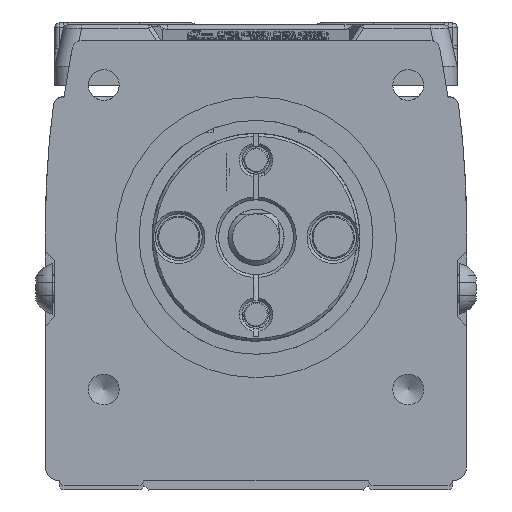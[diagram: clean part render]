
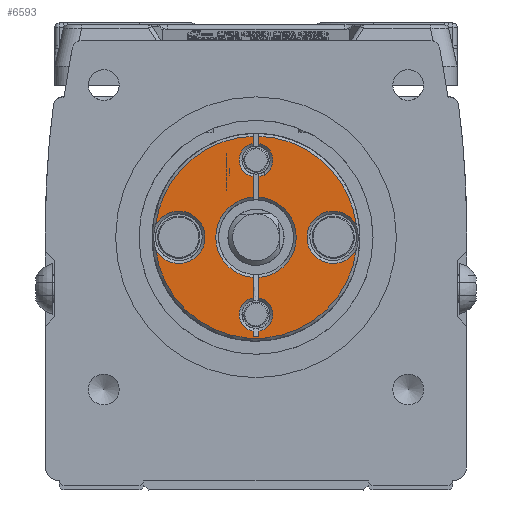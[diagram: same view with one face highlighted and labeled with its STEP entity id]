
A CAD part, left-side view. The second image highlights one B-rep face of the part: STEP entity #6593.
In plain terms, the highlighted planar face has unit normal (-1, 0, 0) as drawn and (1, 0, 0) by its records, which use the part's own axes.
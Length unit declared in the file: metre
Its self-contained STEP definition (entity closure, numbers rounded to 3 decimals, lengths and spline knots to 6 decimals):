
#6593=ADVANCED_FACE('',(#12910),#12911,.F.);
#12910=FACE_OUTER_BOUND('',#22167,.T.);
#12911=PLANE('',#22168);
#22167=EDGE_LOOP('',(#37082,#37083,#37084,#37085,#37086,#37087,#37088,#37089,#37090,#37091,#37092,#37093,#37094,#37095,#37096,#37097,#37098,#37099,#37100,#37101));
#22168=AXIS2_PLACEMENT_3D('',#37102,#37103,#37104);
#37082=ORIENTED_EDGE('',*,*,#38976,.F.);
#37083=ORIENTED_EDGE('',*,*,#38655,.T.);
#37084=ORIENTED_EDGE('',*,*,#42840,.F.);
#37085=ORIENTED_EDGE('',*,*,#43964,.F.);
#37086=ORIENTED_EDGE('',*,*,#42923,.T.);
#37087=ORIENTED_EDGE('',*,*,#43995,.T.);
#37088=ORIENTED_EDGE('',*,*,#43996,.F.);
#37089=ORIENTED_EDGE('',*,*,#42848,.F.);
#37090=ORIENTED_EDGE('',*,*,#43997,.F.);
#37091=ORIENTED_EDGE('',*,*,#43998,.T.);
#37092=ORIENTED_EDGE('',*,*,#41567,.F.);
#37093=ORIENTED_EDGE('',*,*,#38314,.F.);
#37094=ORIENTED_EDGE('',*,*,#38513,.F.);
#37095=ORIENTED_EDGE('',*,*,#39984,.F.);
#37096=ORIENTED_EDGE('',*,*,#43928,.F.);
#37097=ORIENTED_EDGE('',*,*,#39982,.F.);
#37098=ORIENTED_EDGE('',*,*,#43910,.F.);
#37099=ORIENTED_EDGE('',*,*,#39980,.F.);
#37100=ORIENTED_EDGE('',*,*,#43999,.T.);
#37101=ORIENTED_EDGE('',*,*,#44000,.F.);
#37102=CARTESIAN_POINT('',(0.0,0.0,0.));
#37103=DIRECTION('',(-1.0,0.,0.0));
#37104=DIRECTION('',(0.,-1.0,0.0));
#38314=EDGE_CURVE('',#44434,#44435,#44436,.T.);
#38513=EDGE_CURVE('',#44776,#44434,#44778,.T.);
#38655=EDGE_CURVE('',#45009,#45013,#45015,.T.);
#38976=EDGE_CURVE('',#45009,#45596,#45597,.F.);
#39980=EDGE_CURVE('',#47286,#47288,#47289,.T.);
#39982=EDGE_CURVE('',#47290,#47292,#47293,.T.);
#39984=EDGE_CURVE('',#47294,#44776,#47296,.T.);
#41567=EDGE_CURVE('',#44435,#49689,#49690,.F.);
#42840=EDGE_CURVE('',#51450,#45013,#51451,.F.);
#42848=EDGE_CURVE('',#51460,#51461,#51462,.T.);
#42923=EDGE_CURVE('',#51557,#51561,#51563,.F.);
#43910=EDGE_CURVE('',#47288,#47290,#52739,.T.);
#43928=EDGE_CURVE('',#47292,#47294,#52760,.T.);
#43964=EDGE_CURVE('',#51557,#51450,#52802,.T.);
#43995=EDGE_CURVE('',#51561,#52843,#52844,.T.);
#43996=EDGE_CURVE('',#51461,#52843,#52845,.F.);
#43997=EDGE_CURVE('',#52846,#51460,#52847,.T.);
#43998=EDGE_CURVE('',#52846,#49689,#52848,.T.);
#43999=EDGE_CURVE('',#47286,#52849,#52850,.F.);
#44000=EDGE_CURVE('',#45596,#52849,#52851,.T.);
#44434=VERTEX_POINT('',#53429);
#44435=VERTEX_POINT('',#53430);
#44436=CIRCLE('',#53431,0.0018);
#44776=VERTEX_POINT('',#54009);
#44778=LINE('',#54012,#54013);
#45009=VERTEX_POINT('',#54315);
#45013=VERTEX_POINT('',#54322);
#45015=CIRCLE('',#54327,0.0043);
#45596=VERTEX_POINT('',#55102);
#45597=LINE('',#55103,#55104);
#47286=VERTEX_POINT('',#57485);
#47288=VERTEX_POINT('',#57490);
#47289=CIRCLE('',#57491,0.0108);
#47290=VERTEX_POINT('',#57492);
#47292=VERTEX_POINT('',#57499);
#47293=CIRCLE('',#57500,0.0108);
#47294=VERTEX_POINT('',#57501);
#47296=CIRCLE('',#57508,0.0108);
#49689=VERTEX_POINT('',#61291);
#49690=LINE('',#61292,#61293);
#51450=VERTEX_POINT('',#64007);
#51451=LINE('',#64008,#64009);
#51460=VERTEX_POINT('',#64025);
#51461=VERTEX_POINT('',#64026);
#51462=CIRCLE('',#64027,0.0018);
#51557=VERTEX_POINT('',#64149);
#51561=VERTEX_POINT('',#64157);
#51563=LINE('',#64159,#64160);
#52739=CIRCLE('',#66110,0.0028);
#52760=CIRCLE('',#66137,0.0028);
#52802=CIRCLE('',#66187,0.0018);
#52843=VERTEX_POINT('',#66240);
#52844=LINE('',#66241,#66242);
#52845=LINE('',#66243,#66244);
#52846=VERTEX_POINT('',#66245);
#52847=LINE('',#66246,#66247);
#52848=CIRCLE('',#66248,0.0043);
#52849=VERTEX_POINT('',#66249);
#52850=LINE('',#66250,#66251);
#52851=CIRCLE('',#66252,0.0018);
#53429=CARTESIAN_POINT('',(0.,0.010025,0.0003));
#53430=CARTESIAN_POINT('',(0.0,0.006475,0.0003));
#53431=AXIS2_PLACEMENT_3D('',#66751,#66752,#66753);
#54009=CARTESIAN_POINT('',(0.,0.010796,0.0003));
#54012=CARTESIAN_POINT('',(0.0,0.0,0.0003));
#54013=VECTOR('',#66991,1.0);
#54315=CARTESIAN_POINT('',(0.,0.00429,-0.0003));
#54322=CARTESIAN_POINT('',(0.,-0.00429,-0.0003));
#54327=AXIS2_PLACEMENT_3D('',#67172,#67173,#67174);
#55102=CARTESIAN_POINT('',(0.,0.006475,-0.0003));
#55103=CARTESIAN_POINT('',(0.0,0.0,-0.0003));
#55104=VECTOR('',#67670,1.0);
#57485=CARTESIAN_POINT('',(0.,0.010796,-0.0003));
#57490=CARTESIAN_POINT('',(0.,0.001321,-0.010719));
#57491=AXIS2_PLACEMENT_3D('',#69038,#69039,#69040);
#57492=CARTESIAN_POINT('',(0.,-0.001321,-0.010719));
#57499=CARTESIAN_POINT('',(0.,-0.001321,0.010719));
#57500=AXIS2_PLACEMENT_3D('',#69041,#69042,#69043);
#57501=CARTESIAN_POINT('',(0.,0.001321,0.010719));
#57508=AXIS2_PLACEMENT_3D('',#69044,#69045,#69046);
#61291=CARTESIAN_POINT('',(0.0,0.00429,0.0003));
#61292=CARTESIAN_POINT('',(0.0,0.0025,0.0003));
#61293=VECTOR('',#70920,1.0);
#64007=CARTESIAN_POINT('',(0.,-0.006475,-0.0003));
#64008=CARTESIAN_POINT('',(0.0,0.0,-0.0003));
#64009=VECTOR('',#72286,1.0);
#64025=CARTESIAN_POINT('',(0.,-0.006475,0.0003));
#64026=CARTESIAN_POINT('',(0.,-0.010025,0.0003));
#64027=AXIS2_PLACEMENT_3D('',#72291,#72292,#72293);
#64149=CARTESIAN_POINT('',(0.,-0.010025,-0.0003));
#64157=CARTESIAN_POINT('',(0.,-0.010642,-0.0003));
#64159=CARTESIAN_POINT('',(0.0,0.0025,-0.0003));
#64160=VECTOR('',#72379,1.0);
#66110=AXIS2_PLACEMENT_3D('',#73229,#73230,#73231);
#66137=AXIS2_PLACEMENT_3D('',#73241,#73242,#73243);
#66187=AXIS2_PLACEMENT_3D('',#73273,#73274,#73275);
#66240=CARTESIAN_POINT('',(0.,-0.010642,0.0003));
#66241=CARTESIAN_POINT('',(0.,-0.010642,0.0003));
#66242=VECTOR('',#73308,1.0);
#66243=CARTESIAN_POINT('',(0.0,0.0025,0.0003));
#66244=VECTOR('',#73309,1.0);
#66245=CARTESIAN_POINT('',(0.,-0.00429,0.0003));
#66246=CARTESIAN_POINT('',(0.0,0.0,0.0003));
#66247=VECTOR('',#73310,1.0);
#66248=AXIS2_PLACEMENT_3D('',#73311,#73312,#73313);
#66249=CARTESIAN_POINT('',(0.,0.010025,-0.0003));
#66250=CARTESIAN_POINT('',(0.0,0.0025,-0.0003));
#66251=VECTOR('',#73314,1.0);
#66252=AXIS2_PLACEMENT_3D('',#73315,#73316,#73317);
#66751=CARTESIAN_POINT('',(0.0,0.00825,0.));
#66752=DIRECTION('',(1.0,0.0,0.0));
#66753=DIRECTION('',(0.0,0.0,-1.0));
#66991=DIRECTION('',(0.,-1.0,0.0));
#67172=CARTESIAN_POINT('',(0.,0.,0.));
#67173=DIRECTION('',(-1.0,0.,0.0));
#67174=DIRECTION('',(0.,-1.0,0.0));
#67670=DIRECTION('',(0.,-1.0,0.0));
#69038=CARTESIAN_POINT('',(0.,0.0,0.));
#69039=DIRECTION('',(-1.0,0.0,0.0));
#69040=DIRECTION('',(0.0,0.0,1.0));
#69041=CARTESIAN_POINT('',(0.,0.0,0.));
#69042=DIRECTION('',(-1.0,0.0,0.0));
#69043=DIRECTION('',(0.0,0.0,1.0));
#69044=CARTESIAN_POINT('',(0.,0.0,0.));
#69045=DIRECTION('',(-1.0,0.0,0.0));
#69046=DIRECTION('',(0.0,0.0,1.0));
#70920=DIRECTION('',(0.0,1.0,0.0));
#72286=DIRECTION('',(0.,-1.0,0.0));
#72291=CARTESIAN_POINT('',(0.0,-0.00825,0.));
#72292=DIRECTION('',(1.0,0.0,0.0));
#72293=DIRECTION('',(0.0,0.0,-1.0));
#72379=DIRECTION('',(0.0,1.0,0.0));
#73229=CARTESIAN_POINT('',(0.,0.,-0.00825));
#73230=DIRECTION('',(1.0,0.,0.0));
#73231=DIRECTION('',(0.,1.0,0.0));
#73241=CARTESIAN_POINT('',(0.0,0.,0.00825));
#73242=DIRECTION('',(1.0,0.,0.0));
#73243=DIRECTION('',(0.,1.0,0.0));
#73273=CARTESIAN_POINT('',(0.0,-0.00825,0.));
#73274=DIRECTION('',(1.0,0.0,0.0));
#73275=DIRECTION('',(0.0,0.0,-1.0));
#73308=DIRECTION('',(0.0,0.0,1.0));
#73309=DIRECTION('',(0.0,1.0,0.0));
#73310=DIRECTION('',(0.,-1.0,0.0));
#73311=CARTESIAN_POINT('',(0.,0.,0.));
#73312=DIRECTION('',(-1.0,0.,0.0));
#73313=DIRECTION('',(0.,-1.0,0.0));
#73314=DIRECTION('',(0.0,1.0,0.0));
#73315=CARTESIAN_POINT('',(0.0,0.00825,0.));
#73316=DIRECTION('',(1.0,0.0,0.0));
#73317=DIRECTION('',(0.0,0.0,-1.0));
